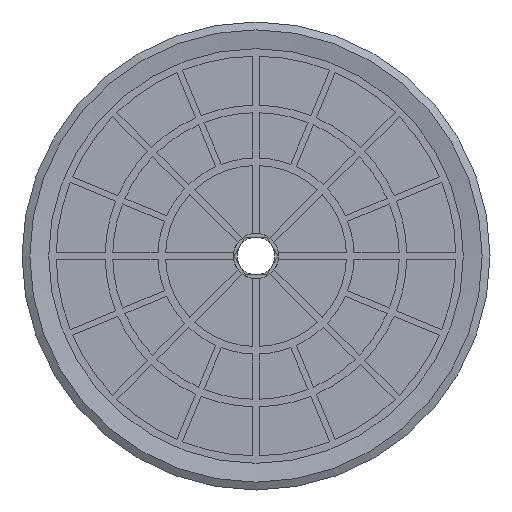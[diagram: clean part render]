
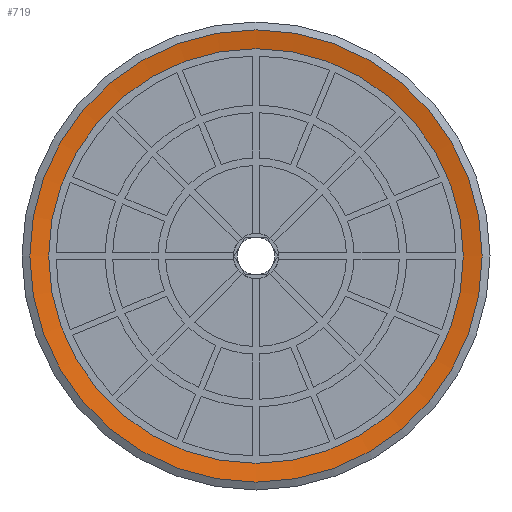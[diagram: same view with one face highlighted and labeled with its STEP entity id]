
A CAD part, front view. The second image highlights one B-rep face of the part: STEP entity #719.
In plain terms, the highlighted conical face has half-angle 80 degrees and reference radius 15 mm.
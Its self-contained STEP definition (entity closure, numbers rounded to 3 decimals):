
#719=ADVANCED_FACE('',(#1358,#1359),#1360,.F.);
#1358=FACE_BOUND('',#2144,.T.);
#1359=FACE_OUTER_BOUND('',#2145,.T.);
#1360=CONICAL_SURFACE('',#2146,15.0,1.396);
#2144=EDGE_LOOP('',(#3992));
#2145=EDGE_LOOP('',(#3993));
#2146=AXIS2_PLACEMENT_3D('',#3994,#3995,#3996);
#3992=ORIENTED_EDGE('',*,*,#5566,.T.);
#3993=ORIENTED_EDGE('',*,*,#5561,.F.);
#3994=CARTESIAN_POINT('',(0.0,0.,0.));
#3995=DIRECTION('',(0.0,0.,-1.0));
#3996=DIRECTION('',(0.0,1.0,0.));
#5561=EDGE_CURVE('',#6766,#6766,#6767,.T.);
#5566=EDGE_CURVE('',#6775,#6775,#6776,.T.);
#6766=VERTEX_POINT('',#8704);
#6767=CIRCLE('',#8705,15.0);
#6775=VERTEX_POINT('',#8715);
#6776=CIRCLE('',#8716,13.75);
#8704=CARTESIAN_POINT('',(0.0,-15.0,0.));
#8705=AXIS2_PLACEMENT_3D('',#10011,#10012,#10013);
#8715=CARTESIAN_POINT('',(0.0,-13.75,0.22));
#8716=AXIS2_PLACEMENT_3D('',#10022,#10023,#10024);
#10011=CARTESIAN_POINT('',(0.0,0.,0.));
#10012=DIRECTION('',(0.0,0.,1.0));
#10013=DIRECTION('',(0.0,-1.0,0.));
#10022=CARTESIAN_POINT('',(0.0,0.,0.22));
#10023=DIRECTION('',(0.0,0.,1.0));
#10024=DIRECTION('',(0.0,-1.0,0.));
